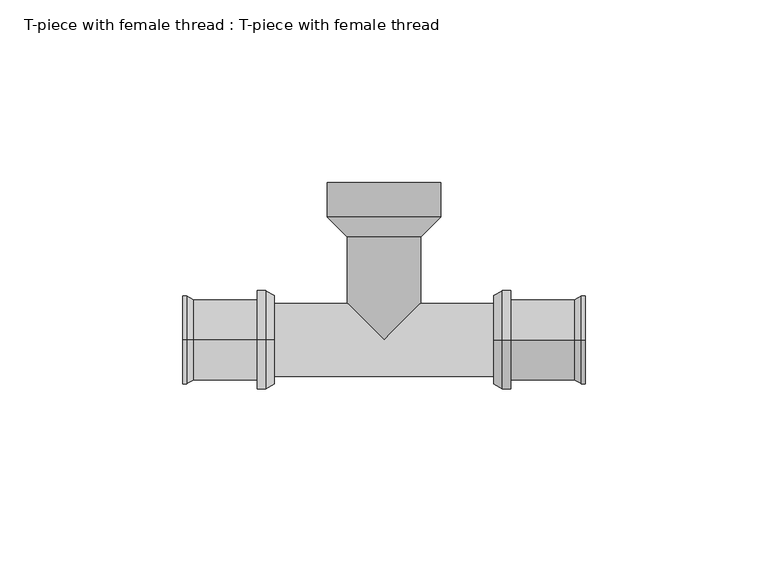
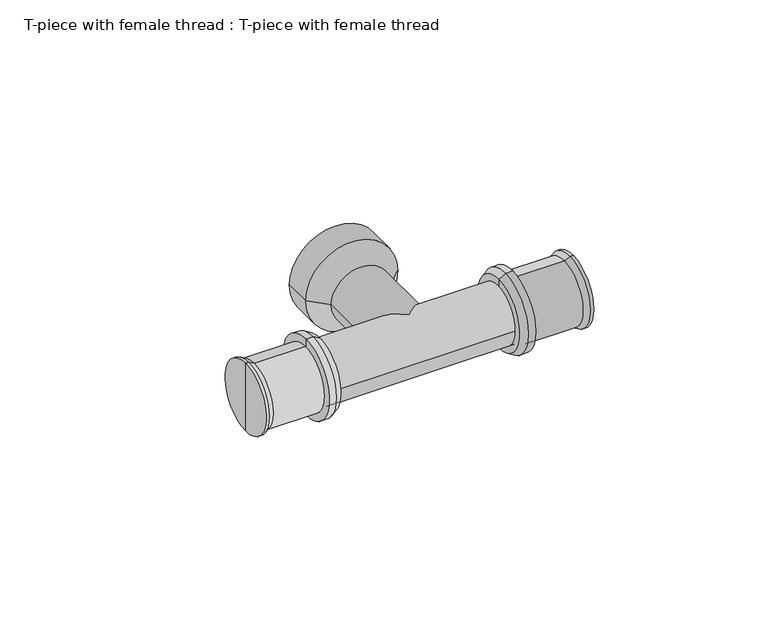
"""IFC4 building model written with IfcOpenShell, lengths in millimetres: pipe fitting geometry, T-piece with female thread : T-piece with female thread."""

from ifc_helpers import new_model, si_unit, frame, origin, place, context, project, spatial, polyline, circle_curve, ellipse_curve, source, transform, mapped, element, save
from ifc_brep_helpers import plane_surface, cylinder_surface, revolved_surface, advanced_brep


def t_piece_with_female_thread_t_piece_with_female_thread_0b845261(model_context):
    return source(origin(), model_context, "Body", "AdvancedBrep", [
        advanced_brep(
        [(30.0, 0.0, 0.0), (30.0, 0.0, 12.1432269), (30.0, 0.0, -12.1432269), (34.7, 0.0, -13.5), (34.7, 0.0, 13.5), (34.7, 0.0, 0.0), (32.35, 0.0, -13.5), (32.35, 0.0, 13.5)],
        [
            (0, 1),
            (1, 2, circle_curve(frame((30.0, 0.0, 0.0), z_axis=(-1.0, 0.0, 0.0), x_axis=(0.0, 0.0, 1.0)), 12.1432269)),
            (2, 0),
            (2, 1, circle_curve(frame((30.0, 0.0, 0.0), z_axis=(-1.0, 0.0, 0.0), x_axis=(0.0, 0.0, 1.0)), 12.1432269)),
            (3, 4, circle_curve(frame((34.7, 0.0, 0.0), z_axis=(1.0, 0.0, 0.0), x_axis=(0.0, 0.0, 1.0)), 13.5)),
            (4, 5),
            (5, 3),
            (4, 3, circle_curve(frame((34.7, 0.0, 0.0), z_axis=(1.0, 0.0, 0.0), x_axis=(0.0, 0.0, 1.0)), 13.5)),
            (6, 7, circle_curve(frame((32.35, 0.0, 0.0), z_axis=(1.0, 0.0, 0.0), x_axis=(0.0, 0.0, 1.0)), 13.5)),
            (7, 4),
            (3, 6),
            (7, 6, circle_curve(frame((32.35, 0.0, 0.0), z_axis=(1.0, 0.0, 0.0), x_axis=(0.0, 0.0, 1.0)), 13.5)),
            (1, 7),
            (6, 2),
        ],
        [
            plane_surface(frame((30.0, 0.0, 0.0), z_axis=(-1.0, 0.0, 0.0), x_axis=(0.0, 0.0, 1.0))),
            plane_surface(frame((34.7, 0.0, 0.0), z_axis=(1.0, 0.0, 0.0), x_axis=(0.0, 0.0, 1.0))),
            cylinder_surface(frame((31.0, 0.0, 0.0), z_axis=(-1.0, 0.0, 0.0), x_axis=(0.0, 0.0, 1.0)), 13.5),
            revolved_surface(polyline([(32.35, 0.0, 13.5), (30.0, 0.0, 12.1432269)]), (31.0, 0.0, 0.0), (-1.0, 0.0, 0.0)),
        ],
        [
            (0, [[1, 2, 3]]),
            (0, [[-3, 4, -1]]),
            (1, [[5, 6, 7]]),
            (1, [[8, -7, -6]]),
            (2, [[9, 10, -5, 11]]),
            (2, [[12, -11, -8, -10]]),
            (3, [[-2, 13, -9, 14]]),
            (3, [[-4, -14, -12, -13]]),
        ],
    ),
        advanced_brep(
        [(34.7, 0.0, -11.0), (34.7, 0.0, 11.0), (52.0, 0.0, 11.0), (52.0, 0.0, -11.0), (55.0, 0.0, -12.0), (55.0, 0.0, 12.0), (55.0, 0.0, 0.0), (34.7, 0.0, 0.0), (54.0, 0.0, -12.0), (54.0, 0.0, 12.0)],
        [
            (0, 1, circle_curve(frame((34.7, 0.0, 0.0), z_axis=(1.0, 0.0, 0.0), x_axis=(0.0, 0.0, 1.0)), 11.0)),
            (1, 2),
            (2, 3, circle_curve(frame((52.0, 0.0, 0.0), z_axis=(-1.0, 0.0, 0.0), x_axis=(0.0, 0.0, 1.0)), 11.0)),
            (3, 0),
            (1, 0, circle_curve(frame((34.7, 0.0, 0.0), z_axis=(1.0, 0.0, 0.0), x_axis=(0.0, 0.0, 1.0)), 11.0)),
            (3, 2, circle_curve(frame((52.0, 0.0, 0.0), z_axis=(-1.0, 0.0, 0.0), x_axis=(0.0, 0.0, 1.0)), 11.0)),
            (4, 5, circle_curve(frame((55.0, 0.0, 0.0), z_axis=(1.0, 0.0, 0.0), x_axis=(0.0, 0.0, 1.0)), 12.0)),
            (5, 6),
            (6, 4),
            (5, 4, circle_curve(frame((55.0, 0.0, 0.0), z_axis=(1.0, 0.0, 0.0), x_axis=(0.0, 0.0, 1.0)), 12.0)),
            (7, 1),
            (0, 7),
            (8, 9, circle_curve(frame((54.0, 0.0, 0.0), z_axis=(1.0, 0.0, 0.0), x_axis=(0.0, 0.0, 1.0)), 12.0)),
            (9, 5),
            (4, 8),
            (9, 8, circle_curve(frame((54.0, 0.0, 0.0), z_axis=(1.0, 0.0, 0.0), x_axis=(0.0, 0.0, 1.0)), 12.0)),
            (2, 9),
            (8, 3),
        ],
        [
            cylinder_surface(frame((-1880.8038476, 0.0, 0.0), z_axis=(-1.0, 0.0, 0.0), x_axis=(0.0, 0.0, 1.0)), 11.0),
            plane_surface(frame((55.0, 0.0, 0.0), z_axis=(1.0, 0.0, 0.0), x_axis=(0.0, 0.0, 1.0))),
            plane_surface(frame((34.7, 0.0, 0.0), z_axis=(-1.0, 0.0, 0.0), x_axis=(0.0, 0.0, 1.0))),
            cylinder_surface(frame((-1880.8038476, 0.0, 0.0), z_axis=(-1.0, 0.0, 0.0), x_axis=(0.0, 0.0, 1.0)), 12.0),
            revolved_surface(polyline([(54.0, 0.0, 12.0), (52.0, 0.0, 11.0)]), (-1880.8038476, 0.0, 0.0), (-1.0, 0.0, 0.0)),
        ],
        [
            (0, [[1, 2, 3, 4]]),
            (0, [[5, -4, 6, -2]]),
            (1, [[7, 8, 9]]),
            (1, [[10, -9, -8]]),
            (2, [[11, -1, 12]]),
            (2, [[-12, -5, -11]]),
            (3, [[13, 14, -7, 15]]),
            (3, [[16, -15, -10, -14]]),
            (4, [[-3, 17, -13, 18]]),
            (4, [[-6, -18, -16, -17]]),
        ],
    ),
        advanced_brep(
        [(-30.0, 0.0, 0.0), (-30.0, 0.0, 12.1432269), (-30.0, 0.0, -12.1432269), (-34.7, 0.0, -13.5), (-34.7, 0.0, 13.5), (-34.7, 0.0, 0.0), (-32.35, 0.0, -13.5), (-32.35, 0.0, 13.5)],
        [
            (0, 1),
            (1, 2, circle_curve(frame((-30.0, 0.0, 0.0), z_axis=(1.0, 0.0, 0.0), x_axis=(0.0, 0.0, 1.0)), 12.1432269)),
            (2, 0),
            (2, 1, circle_curve(frame((-30.0, 0.0, 0.0), z_axis=(1.0, 0.0, 0.0), x_axis=(0.0, 0.0, 1.0)), 12.1432269)),
            (3, 4, circle_curve(frame((-34.7, 0.0, 0.0), z_axis=(-1.0, 0.0, 0.0), x_axis=(0.0, 0.0, 1.0)), 13.5)),
            (4, 5),
            (5, 3),
            (4, 3, circle_curve(frame((-34.7, 0.0, 0.0), z_axis=(-1.0, 0.0, 0.0), x_axis=(0.0, 0.0, 1.0)), 13.5)),
            (6, 7, circle_curve(frame((-32.35, 0.0, 0.0), z_axis=(-1.0, 0.0, 0.0), x_axis=(0.0, 0.0, 1.0)), 13.5)),
            (7, 4),
            (3, 6),
            (7, 6, circle_curve(frame((-32.35, 0.0, 0.0), z_axis=(-1.0, 0.0, 0.0), x_axis=(0.0, 0.0, 1.0)), 13.5)),
            (1, 7),
            (6, 2),
        ],
        [
            plane_surface(frame((-30.0, 0.0, 0.0), z_axis=(1.0, 0.0, 0.0), x_axis=(0.0, 0.0, 1.0))),
            plane_surface(frame((-34.7, 0.0, 0.0), z_axis=(-1.0, 0.0, 0.0), x_axis=(0.0, 0.0, 1.0))),
            cylinder_surface(frame((-31.0, 0.0, 0.0), z_axis=(1.0, 0.0, 0.0), x_axis=(0.0, 0.0, 1.0)), 13.5),
            revolved_surface(polyline([(-32.35, 0.0, 13.5), (-30.0, 0.0, 12.1432269)]), (-31.0, 0.0, 0.0), (1.0, 0.0, 0.0)),
        ],
        [
            (0, [[1, 2, 3]]),
            (0, [[-3, 4, -1]]),
            (1, [[5, 6, 7]]),
            (1, [[8, -7, -6]]),
            (2, [[9, 10, -5, 11]]),
            (2, [[12, -11, -8, -10]]),
            (3, [[-2, 13, -9, 14]]),
            (3, [[-4, -14, -12, -13]]),
        ],
    ),
        advanced_brep(
        [(-34.7, 0.0, -11.0), (-34.7, 0.0, 11.0), (-52.0, 0.0, 11.0), (-52.0, 0.0, -11.0), (-55.0, 0.0, -12.0), (-55.0, 0.0, 12.0), (-55.0, 0.0, 0.0), (-34.7, 0.0, 0.0), (-54.0, 0.0, -12.0), (-54.0, 0.0, 12.0)],
        [
            (0, 1, circle_curve(frame((-34.7, 0.0, 0.0), z_axis=(-1.0, 0.0, 0.0), x_axis=(0.0, 0.0, 1.0)), 11.0)),
            (1, 2),
            (2, 3, circle_curve(frame((-52.0, 0.0, 0.0), z_axis=(1.0, 0.0, 0.0), x_axis=(0.0, 0.0, 1.0)), 11.0)),
            (3, 0),
            (1, 0, circle_curve(frame((-34.7, 0.0, 0.0), z_axis=(-1.0, 0.0, 0.0), x_axis=(0.0, 0.0, 1.0)), 11.0)),
            (3, 2, circle_curve(frame((-52.0, 0.0, 0.0), z_axis=(1.0, 0.0, 0.0), x_axis=(0.0, 0.0, 1.0)), 11.0)),
            (4, 5, circle_curve(frame((-55.0, 0.0, 0.0), z_axis=(-1.0, 0.0, 0.0), x_axis=(0.0, 0.0, 1.0)), 12.0)),
            (5, 6),
            (6, 4),
            (5, 4, circle_curve(frame((-55.0, 0.0, 0.0), z_axis=(-1.0, 0.0, 0.0), x_axis=(0.0, 0.0, 1.0)), 12.0)),
            (7, 1),
            (0, 7),
            (8, 9, circle_curve(frame((-54.0, 0.0, 0.0), z_axis=(-1.0, 0.0, 0.0), x_axis=(0.0, 0.0, 1.0)), 12.0)),
            (9, 5),
            (4, 8),
            (9, 8, circle_curve(frame((-54.0, 0.0, 0.0), z_axis=(-1.0, 0.0, 0.0), x_axis=(0.0, 0.0, 1.0)), 12.0)),
            (2, 9),
            (8, 3),
        ],
        [
            cylinder_surface(frame((1880.8038476, 0.0, 0.0), z_axis=(1.0, 0.0, 0.0), x_axis=(0.0, 0.0, 1.0)), 11.0),
            plane_surface(frame((-55.0, 0.0, 0.0), z_axis=(-1.0, 0.0, 0.0), x_axis=(0.0, 0.0, 1.0))),
            plane_surface(frame((-34.7, 0.0, 0.0), z_axis=(1.0, 0.0, 0.0), x_axis=(0.0, 0.0, 1.0))),
            cylinder_surface(frame((1880.8038476, 0.0, 0.0), z_axis=(1.0, 0.0, 0.0), x_axis=(0.0, 0.0, 1.0)), 12.0),
            revolved_surface(polyline([(-54.0, 0.0, 12.0), (-52.0, 0.0, 11.0)]), (1880.8038476, 0.0, 0.0), (1.0, 0.0, 0.0)),
        ],
        [
            (0, [[1, 2, 3, 4]]),
            (0, [[5, -4, 6, -2]]),
            (1, [[7, 8, 9]]),
            (1, [[10, -9, -8]]),
            (2, [[11, -1, 12]]),
            (2, [[-12, -5, -11]]),
            (3, [[13, 14, -7, 15]]),
            (3, [[16, -15, -10, -14]]),
            (4, [[-3, 17, -13, 18]]),
            (4, [[-6, -18, -16, -17]]),
        ],
    ),
        advanced_brep(
        [(31.0, 10.0, 0.0), (31.0, -10.0, 0.0), (-31.0, 10.0, 0.0), (-31.0, -10.0, 0.0), (10.0, 10.0, 0.0), (0.0, 0.0, 10.0), (-10.0, 10.0, 0.0), (0.0, 0.0, -10.0), (0.0, 43.0, 0.0), (15.5, 43.0, 0.0), (-15.5, 43.0, 0.0), (-10.0, 28.078675, 0.0), (10.0, 28.078675, 0.0), (-15.5, 33.578675, 0.0), (15.5, 33.578675, 0.0)],
        [
            (0, 1, circle_curve(frame((31.0, 0.0, 0.0), z_axis=(1.0, 0.0, 0.0), x_axis=(0.0, -1.0, 0.0)), 10.0)),
            (1, 0, circle_curve(frame((31.0, 0.0, 0.0), z_axis=(1.0, 0.0, 0.0), x_axis=(0.0, -1.0, 0.0)), 10.0)),
            (2, 3, circle_curve(frame((-31.0, 0.0, 0.0), z_axis=(-1.0, 0.0, 0.0), x_axis=(0.0, -1.0, 0.0)), 10.0)),
            (3, 2, circle_curve(frame((-31.0, 0.0, 0.0), z_axis=(-1.0, 0.0, 0.0), x_axis=(0.0, -1.0, 0.0)), 10.0)),
            (0, 4),
            (4, 5, ellipse_curve(frame((0.0, 0.0, 0.0), z_axis=(0.707106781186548, -0.7071067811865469, 0.0), x_axis=(0.707106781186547, 0.7071067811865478, 0.0)), 14.1421356, 10.0)),
            (5, 6, ellipse_curve(frame((0.0, 0.0, 0.0), z_axis=(-0.7071067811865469, -0.707106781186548, 0.0), x_axis=(0.7071067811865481, -0.7071067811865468, 0.0)), 14.1421356, 10.0)),
            (6, 2),
            (3, 1),
            (6, 7, ellipse_curve(frame((0.0, 0.0, 0.0), z_axis=(-0.7071067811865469, -0.707106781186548, 0.0), x_axis=(0.7071067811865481, -0.7071067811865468, 0.0)), 14.1421356, 10.0)),
            (7, 4, ellipse_curve(frame((0.0, 0.0, 0.0), z_axis=(0.707106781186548, -0.7071067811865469, 0.0), x_axis=(0.707106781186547, 0.7071067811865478, 0.0)), 14.1421356, 10.0)),
            (8, 9),
            (9, 10, circle_curve(frame((0.0, 43.0, 0.0), z_axis=(0.0, 1.0, 0.0), x_axis=(1.0, 0.0, 0.0)), 15.5)),
            (10, 8),
            (10, 9, circle_curve(frame((0.0, 43.0, 0.0), z_axis=(0.0, 1.0, 0.0), x_axis=(1.0, 0.0, 0.0)), 15.5)),
            (11, 12, circle_curve(frame((0.0, 28.078675, 0.0), z_axis=(0.0, -1.0, 0.0), x_axis=(1.0, 0.0, 0.0)), 10.0)),
            (12, 4),
            (6, 11),
            (12, 11, circle_curve(frame((0.0, 28.078675, 0.0), z_axis=(0.0, -1.0, 0.0), x_axis=(1.0, 0.0, 0.0)), 10.0)),
            (11, 13),
            (13, 14, circle_curve(frame((0.0, 33.578675, 0.0), z_axis=(0.0, -1.0, 0.0), x_axis=(1.0, 0.0, 0.0)), 15.5)),
            (14, 12),
            (14, 13, circle_curve(frame((0.0, 33.578675, 0.0), z_axis=(0.0, -1.0, 0.0), x_axis=(1.0, 0.0, 0.0)), 15.5)),
            (9, 14),
            (13, 10),
        ],
        [
            plane_surface(frame((31.0, 0.0, 0.0), z_axis=(1.0, 0.0, 0.0), x_axis=(0.0, 0.0, 1.0))),
            plane_surface(frame((-31.0, 0.0, 0.0), z_axis=(-1.0, 0.0, 0.0), x_axis=(0.0, 0.0, 1.0))),
            cylinder_surface(frame((31.0, 0.0, 0.0), z_axis=(1.0, 0.0, 0.0), x_axis=(0.0, -1.0, 0.0)), 10.0),
            plane_surface(frame((0.0, 43.0, 0.0), z_axis=(0.0, 1.0, 0.0), x_axis=(1.0, 0.0, 0.0))),
            cylinder_surface(frame((0.0, 0.0, 0.0), z_axis=(0.0, 1.0, 0.0), x_axis=(1.0, 0.0, 0.0)), 10.0),
            revolved_surface(polyline([(10.0, 28.078675, 0.0), (15.5, 33.578675, 0.0)]), (0.0, 0.0, 0.0), (0.0, 1.0, 0.0)),
            cylinder_surface(frame((0.0, 0.0, 0.0), z_axis=(0.0, 1.0, 0.0), x_axis=(1.0, 0.0, 0.0)), 15.5),
        ],
        [
            (0, [[1, 2]]),
            (1, [[3, 4]]),
            (2, [[-1, 5, 6, 7, 8, -4, 9]]),
            (2, [[-2, -9, -3, -8, 10, 11, -5]]),
            (3, [[12, 13, 14]]),
            (3, [[-12, -14, 15]]),
            (4, [[16, 17, -11, -10, 18]]),
            (4, [[19, -18, -7, -6, -17]]),
            (5, [[-16, 20, 21, 22]]),
            (5, [[-19, -22, 23, -20]]),
            (6, [[-13, 24, -21, 25]]),
            (6, [[-15, -25, -23, -24]]),
        ],
    ),
    ])


if __name__ == "__main__":
    model = new_model("IFC4")
    model_context = context("Model", 3, world=origin())
    ifc_project = project(units=[si_unit("LENGTHUNIT", "METRE", prefix="MILLI")], contexts=[model_context])
    site = spatial("IfcSite", under=ifc_project)
    building = spatial("IfcBuilding", under=site)
    placement = place(None, origin())
    t_piece_with_female_thread_t_piece_with_female_thread_shape = t_piece_with_female_thread_t_piece_with_female_thread_0b845261(model_context)
    element("IfcPipeFitting", 1, ObjectType="T-piece with female thread : T-piece with female thread", at=placement, inside=building, context=model_context, shape_type="MappedRepresentation", body=[
        mapped(t_piece_with_female_thread_t_piece_with_female_thread_shape, transform((0.0, 0.0, 0.0), x_axis=(1.0, 0.0, 0.0), y_axis=(0.0, 1.0, 0.0), z_axis=(0.0, 0.0, 1.0))),
    ])
    save(model, "model.ifc")
